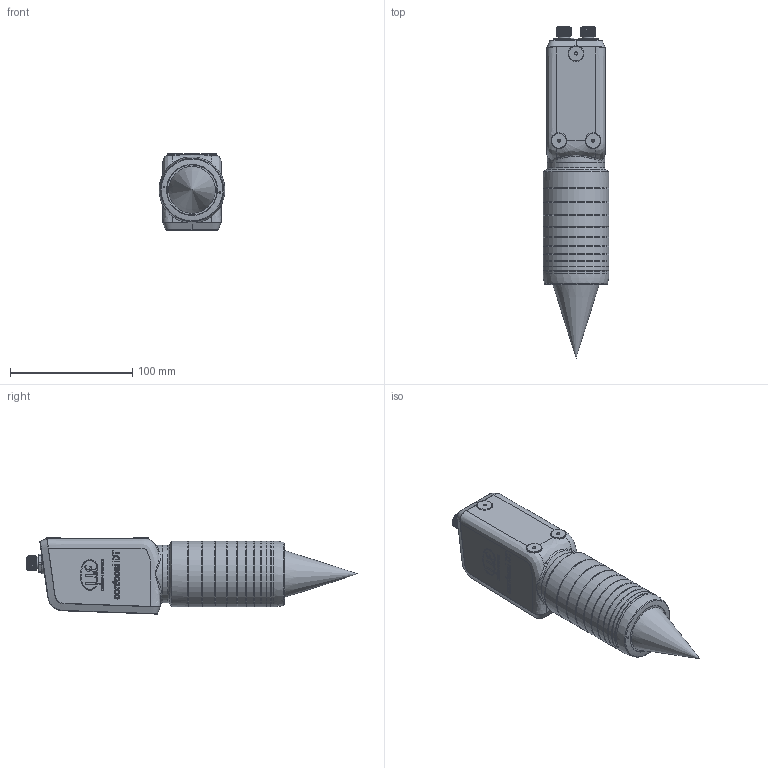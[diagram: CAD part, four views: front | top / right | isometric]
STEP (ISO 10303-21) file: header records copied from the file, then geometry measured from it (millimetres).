
FILE_DESCRIPTION (( 'STEP AP214' ), '1' );
FILE_NAME ('IFD2415-10.STEP', '2023-04-05T12:00:47', ( '' ), ( '' ), 'SwSTEP 2.0', 'SolidWorks 2020', '' );
FILE_SCHEMA (( 'AUTOMOTIVE_DESIGN' ));
Length unit declared in the file: millimetre
Products named in the file (1): IFD2415-10
Bounding box: 53.97 x 271.95 x 62.4 mm (x, y, z)
Volume: 497288.3 mm3; surface area: 58909.6 mm2
Topology: 2 solids, 23 shells, 3344 faces, 8631 edges, 5420 vertices
Faces by surface type: bspline 1271, plane 1205, cylinder 598, torus 147, sphere 103, cone 20
Full cylindrical faces by diameter (mm): 0.5 x29, 1.5 x2, 1.6 x1, 2 x14, 2.2 x10, 2.3 x10, 2.5 x3, 3.8 x10, 4 x10, 8.5 x4, 9.5 x1, 10 x7, 41 x1, 43 x1, 47 x1, 54 x11
Entity records: 187335 total; most frequent: CARTESIAN_POINT 80947, ORIENTED_EDGE 16368, DIRECTION 10969, EDGE_CURVE 8184, VERTEX_POINT 5230, VECTOR 3827, LINE 3827, EDGE_LOOP 3724
